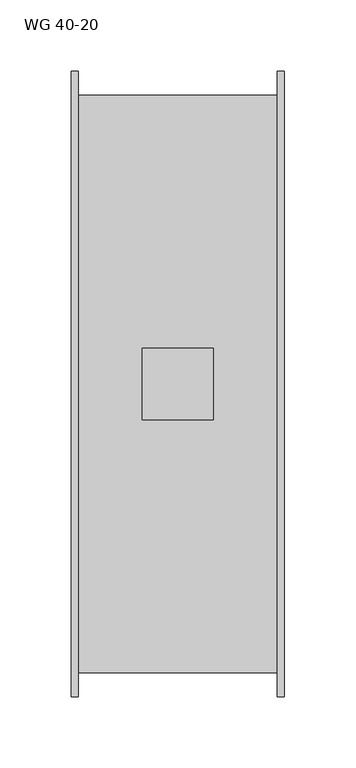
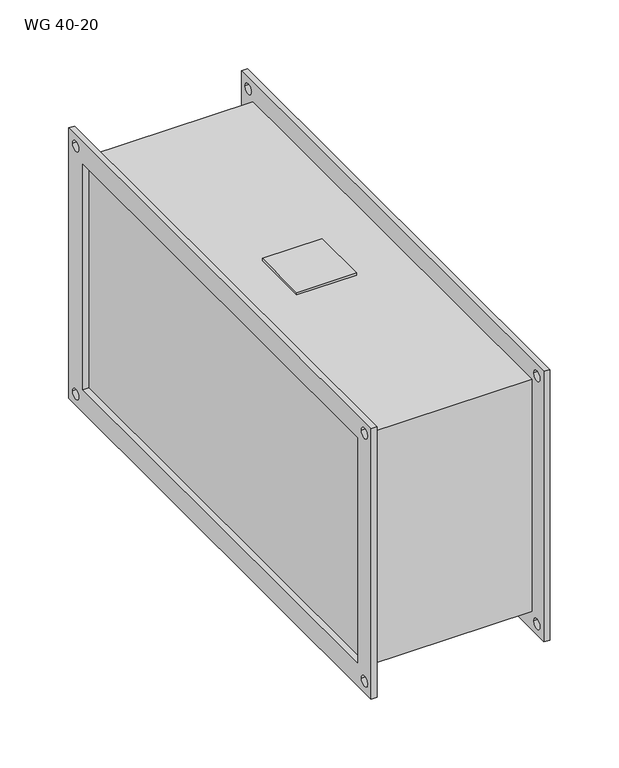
"""IFC4 building model written with IfcOpenShell, lengths in millimetres: damper geometry, KORF_Вставка_Гибкая_WG : WG 40-20."""

from ifc_helpers import new_model, si_unit, point, frame, frame_2d, origin, place, context, project, spatial, polyline, circle_curve, trimmed, segment, composite_curve, outline, extrude, source, transform, mapped, element, save


def wg_40_20_65d9a09b(model_context):
    return source(origin(), model_context, "Body", "SweptSolid", [
        extrude(outline(polyline([(50.0, -25.0), (50.0, 25.0), (100.0, 25.0), (100.0, -25.0), (50.0, -25.0)])), frame((0.0, 0.0, 103.0), z_axis=(0.0, 0.0, 1.0), x_axis=(1.0, 0.0, 0.0)), (0.0, 0.0, 1.0), 2.0),
        extrude(outline(polyline([(-220.0, 120.0), (220.0, 120.0), (220.0, -120.0), (-220.0, -120.0), (-220.0, 120.0)]), holes=[polyline([(-200.0, 100.0), (-200.0, -100.0), (200.0, -100.0), (200.0, 100.0), (-200.0, 100.0)]), composite_curve([segment(trimmed(circle_curve(frame_2d((210.0, 110.0)), 4.5), [point((205.5, 110.0))], [point((214.5, 110.0))], True, "CARTESIAN"), True, "CONTINUOUS"), segment(trimmed(circle_curve(frame_2d((210.0, 110.0)), 4.5), [point((214.5, 110.0))], [point((205.5, 110.0))], True, "CARTESIAN"), True, "CONTINUOUS")], self_intersect=False), composite_curve([segment(trimmed(circle_curve(frame_2d((-210.0, 110.0)), 4.5), [point((-214.5, 110.0))], [point((-205.5, 110.0))], True, "CARTESIAN"), True, "CONTINUOUS"), segment(trimmed(circle_curve(frame_2d((-210.0, 110.0)), 4.5), [point((-205.5, 110.0))], [point((-214.5, 110.0))], True, "CARTESIAN"), True, "CONTINUOUS")], self_intersect=False), composite_curve([segment(trimmed(circle_curve(frame_2d((-210.0, -110.0)), 4.5), [point((-214.5, -110.0))], [point((-205.5, -110.0))], True, "CARTESIAN"), True, "CONTINUOUS"), segment(trimmed(circle_curve(frame_2d((-210.0, -110.0)), 4.5), [point((-205.5, -110.0))], [point((-214.5, -110.0))], True, "CARTESIAN"), True, "CONTINUOUS")], self_intersect=False), composite_curve([segment(trimmed(circle_curve(frame_2d((210.0, -110.0)), 4.5), [point((205.5, -110.0))], [point((214.5, -110.0))], True, "CARTESIAN"), True, "CONTINUOUS"), segment(trimmed(circle_curve(frame_2d((210.0, -110.0)), 4.5), [point((214.5, -110.0))], [point((205.5, -110.0))], True, "CARTESIAN"), True, "CONTINUOUS")], self_intersect=False)]), frame((145.0, 0.0, 0.0), z_axis=(1.0, 0.0, 0.0), x_axis=(0.0, 1.0, 0.0)), (0.0, 0.0, 1.0), 5.0),
        extrude(outline(polyline([(-220.0, 120.0), (220.0, 120.0), (220.0, -120.0), (-220.0, -120.0), (-220.0, 120.0)]), holes=[polyline([(-200.0, 100.0), (-200.0, -100.0), (200.0, -100.0), (200.0, 100.0), (-200.0, 100.0)]), composite_curve([segment(trimmed(circle_curve(frame_2d((210.0, 110.0)), 4.5), [point((205.5, 110.0))], [point((214.5, 110.0))], True, "CARTESIAN"), True, "CONTINUOUS"), segment(trimmed(circle_curve(frame_2d((210.0, 110.0)), 4.5), [point((214.5, 110.0))], [point((205.5, 110.0))], True, "CARTESIAN"), True, "CONTINUOUS")], self_intersect=False), composite_curve([segment(trimmed(circle_curve(frame_2d((-210.0, 110.0)), 4.5), [point((-214.5, 110.0))], [point((-205.5, 110.0))], True, "CARTESIAN"), True, "CONTINUOUS"), segment(trimmed(circle_curve(frame_2d((-210.0, 110.0)), 4.5), [point((-205.5, 110.0))], [point((-214.5, 110.0))], True, "CARTESIAN"), True, "CONTINUOUS")], self_intersect=False), composite_curve([segment(trimmed(circle_curve(frame_2d((-210.0, -110.0)), 4.5), [point((-214.5, -110.0))], [point((-205.5, -110.0))], True, "CARTESIAN"), True, "CONTINUOUS"), segment(trimmed(circle_curve(frame_2d((-210.0, -110.0)), 4.5), [point((-205.5, -110.0))], [point((-214.5, -110.0))], True, "CARTESIAN"), True, "CONTINUOUS")], self_intersect=False), composite_curve([segment(trimmed(circle_curve(frame_2d((210.0, -110.0)), 4.5), [point((205.5, -110.0))], [point((214.5, -110.0))], True, "CARTESIAN"), True, "CONTINUOUS"), segment(trimmed(circle_curve(frame_2d((210.0, -110.0)), 4.5), [point((214.5, -110.0))], [point((205.5, -110.0))], True, "CARTESIAN"), True, "CONTINUOUS")], self_intersect=False)]), frame((0.0, 0.0, 0.0), z_axis=(1.0, 0.0, 0.0), x_axis=(0.0, 1.0, 0.0)), (0.0, 0.0, 1.0), 5.0),
        extrude(outline(polyline([(145.0, 203.0), (145.0, -203.0), (5.0, -203.0), (5.0, 203.0), (145.0, 203.0)])), frame((0.0, 0.0, -103.0), z_axis=(0.0, 0.0, 1.0), x_axis=(1.0, 0.0, 0.0)), (0.0, 0.0, 1.0), 206.0),
    ])


if __name__ == "__main__":
    model = new_model("IFC4")
    model_context = context("Model", 3, world=origin())
    ifc_project = project(units=[si_unit("LENGTHUNIT", "METRE", prefix="MILLI")], contexts=[model_context])
    site = spatial("IfcSite", under=ifc_project)
    building = spatial("IfcBuilding", under=site)
    placement = place(None, origin())
    wg_40_20_shape = wg_40_20_65d9a09b(model_context)
    element("IfcDamper", 1, ObjectType="KORF_Вставка_Гибкая_WG : WG 40-20", at=placement, inside=building, context=model_context, shape_type="MappedRepresentation", body=[
        mapped(wg_40_20_shape, transform((0.0, 0.0, 0.0), x_axis=(1.0, 0.0, 0.0), y_axis=(0.0, 1.0, 0.0), z_axis=(0.0, 0.0, 1.0))),
    ])
    save(model, "model.ifc")
